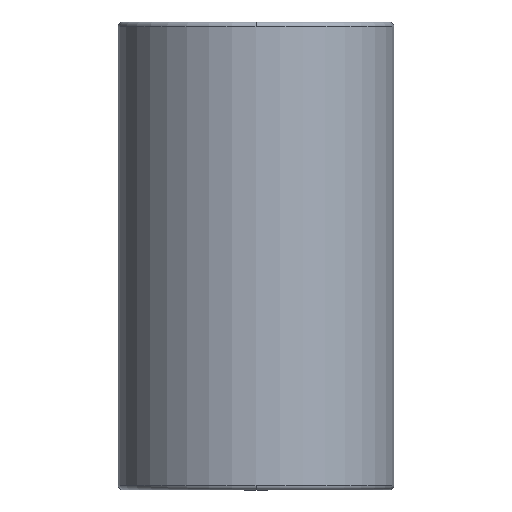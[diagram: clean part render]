
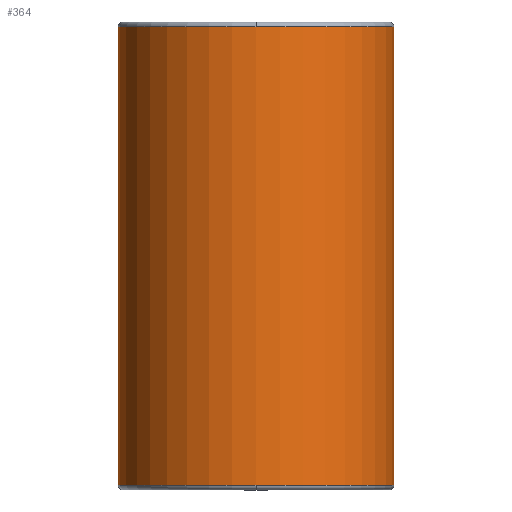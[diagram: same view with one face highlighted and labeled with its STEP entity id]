
A CAD part, front view. The second image highlights one B-rep face of the part: STEP entity #364.
In plain terms, the highlighted cylindrical face has radius 55.992 mm (diameter 111.984 mm), a partial arc.
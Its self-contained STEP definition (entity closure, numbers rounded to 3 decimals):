
#269=CARTESIAN_POINT('',(0.0,-55.992,188.));
#270=VERTEX_POINT('',#269);
#296=CARTESIAN_POINT('',(-55.992,0.,188.));
#297=VERTEX_POINT('',#296);
#305=CARTESIAN_POINT('',(0.0,0.,188.));
#306=DIRECTION('',(0.0,0.0,1.0));
#307=DIRECTION('',(1.0,0.0,0.0));
#308=AXIS2_PLACEMENT_3D('',#305,#306,#307);
#309=CIRCLE('',#308,55.992);
#310=EDGE_CURVE('',#297,#270,#309,.T.);
#315=CARTESIAN_POINT('',(0.0,0.,95.));
#316=DIRECTION('',(0.0,0.,1.0));
#317=DIRECTION('',(1.0,0.0,0.0));
#318=AXIS2_PLACEMENT_3D('',#315,#316,#317);
#319=CYLINDRICAL_SURFACE('',#318,55.992);
#320=CARTESIAN_POINT('',(55.992,0.,188.));
#321=VERTEX_POINT('',#320);
#322=CARTESIAN_POINT('',(55.992,0.,2.));
#323=VERTEX_POINT('',#322);
#324=CARTESIAN_POINT('',(55.992,0.,188.));
#325=DIRECTION('',(0.0,0.0,-1.0));
#326=VECTOR('',#325,186.);
#327=LINE('',#324,#326);
#328=EDGE_CURVE('',#321,#323,#327,.T.);
#329=ORIENTED_EDGE('',*,*,#328,.F.);
#330=CARTESIAN_POINT('',(0.0,0.,188.));
#331=DIRECTION('',(0.0,0.0,1.0));
#332=DIRECTION('',(1.0,0.0,0.0));
#333=AXIS2_PLACEMENT_3D('',#330,#331,#332);
#334=CIRCLE('',#333,55.992);
#335=EDGE_CURVE('',#270,#321,#334,.T.);
#336=ORIENTED_EDGE('',*,*,#335,.F.);
#337=ORIENTED_EDGE('',*,*,#310,.F.);
#338=CARTESIAN_POINT('',(-55.992,0.,2.0));
#339=VERTEX_POINT('',#338);
#340=CARTESIAN_POINT('',(-55.992,0.,188.));
#341=DIRECTION('',(0.0,0.0,-1.0));
#342=VECTOR('',#341,186.);
#343=LINE('',#340,#342);
#344=EDGE_CURVE('',#297,#339,#343,.T.);
#345=ORIENTED_EDGE('',*,*,#344,.T.);
#346=CARTESIAN_POINT('',(0.0,-55.992,2.));
#347=VERTEX_POINT('',#346);
#348=CARTESIAN_POINT('',(0.0,0.,2.0));
#349=DIRECTION('',(0.0,0.0,1.0));
#350=DIRECTION('',(1.0,0.0,0.0));
#351=AXIS2_PLACEMENT_3D('',#348,#349,#350);
#352=CIRCLE('',#351,55.992);
#353=EDGE_CURVE('',#339,#347,#352,.T.);
#354=ORIENTED_EDGE('',*,*,#353,.T.);
#355=CARTESIAN_POINT('',(0.0,0.,2.0));
#356=DIRECTION('',(0.0,0.0,1.0));
#357=DIRECTION('',(1.0,0.0,0.0));
#358=AXIS2_PLACEMENT_3D('',#355,#356,#357);
#359=CIRCLE('',#358,55.992);
#360=EDGE_CURVE('',#347,#323,#359,.T.);
#361=ORIENTED_EDGE('',*,*,#360,.T.);
#362=EDGE_LOOP('',(#329,#336,#337,#345,#354,#361));
#363=FACE_OUTER_BOUND('',#362,.T.);
#364=ADVANCED_FACE('',(#363),#319,.T.);
